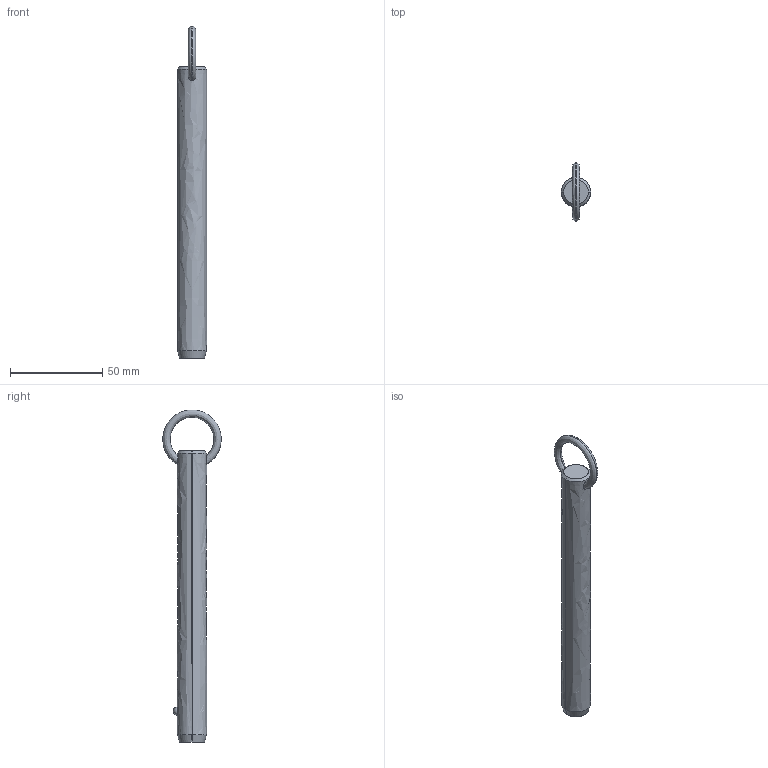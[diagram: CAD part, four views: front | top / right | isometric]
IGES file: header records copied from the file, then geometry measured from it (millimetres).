
Start section: SolidWorks IGES file using analytic representation for surfaces
Global section: file name: C:\Users\liam_\OneDrive\Documents\WORK\Work for WixRoyd\Job Files\J-00019 - Matt Davis CAD Checking\04. CAD Drawings\automotion20190605\P1250.2_v2\P1250.2_v2_20190729_IGES\P1250.062-510.igs; native system: SolidWorks 2017; preprocessor: SolidWorks 2017; author: liam_; date: 190729.233928; units: millimetre
Bounding box: 15.8 x 31.62 x 180.18 mm (x, y, z)
Surface area: 9016.5 mm2 (no closed solid volume)
Topology: 0 solids, 0 shells, 12 faces, 292 edges, 290 vertices
Faces by surface type: revolution 8, bspline 4
